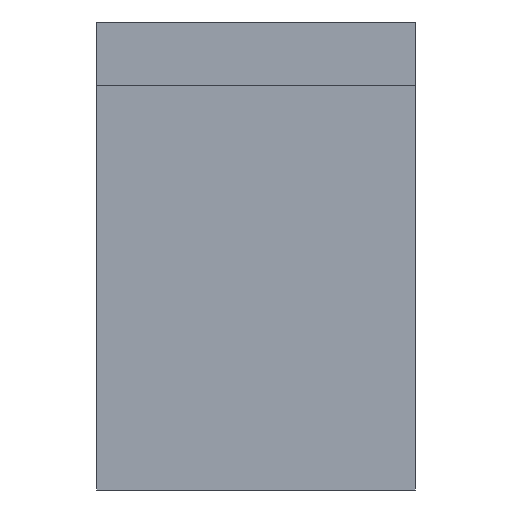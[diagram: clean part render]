
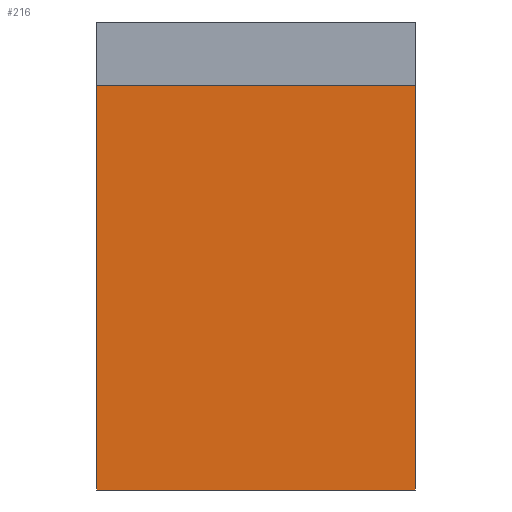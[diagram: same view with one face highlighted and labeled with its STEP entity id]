
A CAD part, front view. The second image highlights one B-rep face of the part: STEP entity #216.
In plain terms, the highlighted planar face has unit normal (0, -1, 0).
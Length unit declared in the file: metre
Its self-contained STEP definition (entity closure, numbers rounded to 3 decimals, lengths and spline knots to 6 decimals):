
#18=ORIENTED_EDGE('',*,*,#74,.T.);
#19=ORIENTED_EDGE('',*,*,#75,.T.);
#20=ORIENTED_EDGE('',*,*,#76,.F.);
#21=ORIENTED_EDGE('',*,*,#77,.F.);
#74=EDGE_CURVE('',#102,#103,#122,.T.);
#75=EDGE_CURVE('',#103,#104,#123,.T.);
#76=EDGE_CURVE('',#105,#104,#124,.T.);
#77=EDGE_CURVE('',#102,#105,#125,.T.);
#102=VERTEX_POINT('',#318);
#103=VERTEX_POINT('',#319);
#104=VERTEX_POINT('',#321);
#105=VERTEX_POINT('',#323);
#122=LINE('',#317,#146);
#123=LINE('',#320,#147);
#124=LINE('',#322,#148);
#125=LINE('',#324,#149);
#146=VECTOR('',#261,1.);
#147=VECTOR('',#262,1.);
#148=VECTOR('',#263,1.);
#149=VECTOR('',#264,1.);
#170=EDGE_LOOP('',(#18,#19,#20,#21));
#188=FACE_BOUND('',#170,.T.);
#206=PLANE('',#241);
#216=ADVANCED_FACE('',(#188),#206,.T.);
#241=AXIS2_PLACEMENT_3D('',#316,#259,#260);
#259=DIRECTION('',(0.,-1.,0.));
#260=DIRECTION('',(1.,0.,0.));
#261=DIRECTION('',(0.,0.,1.));
#262=DIRECTION('',(-1.,0.,0.));
#263=DIRECTION('',(0.,0.,1.));
#264=DIRECTION('',(-1.,0.,0.));
#316=CARTESIAN_POINT('',(-0.309091,-0.027472,0.00735));
#317=CARTESIAN_POINT('',(-0.304091,-0.027472,0.00735));
#318=CARTESIAN_POINT('',(-0.304091,-0.027472,0.));
#319=CARTESIAN_POINT('',(-0.304091,-0.027472,0.0127));
#320=CARTESIAN_POINT('',(-0.309091,-0.027472,0.0127));
#321=CARTESIAN_POINT('',(-0.314091,-0.027472,0.0127));
#322=CARTESIAN_POINT('',(-0.314091,-0.027472,0.00735));
#323=CARTESIAN_POINT('',(-0.314091,-0.027472,0.));
#324=CARTESIAN_POINT('',(-0.309091,-0.027472,0.));
